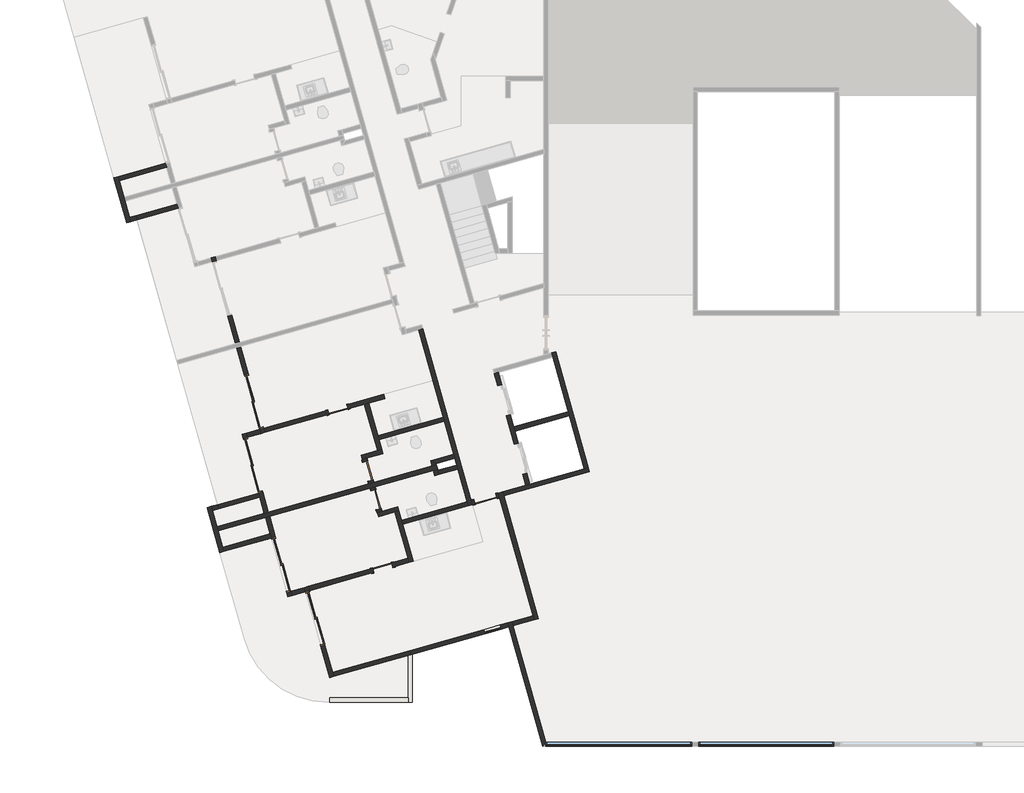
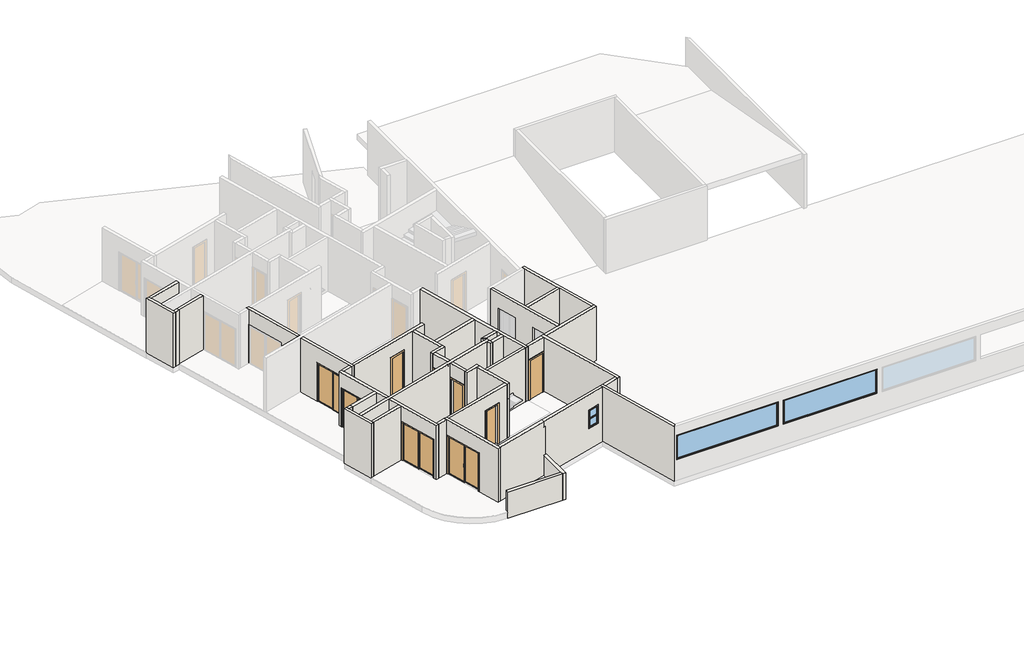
# One storey, part 1 of 4: 43 walls, 9 doors, 3 windows.
"""IFC4 building model written with IfcOpenShell, lengths in millimetres."""

from ifc_helpers import new_model, si_unit, frame, origin, place, context, project, spatial, polyline, outline, extrude, faceted_brep, transform, mapped, element, save
from components import p2_80cm_9d4be4ef, p3_70cm_ef4d15e3, p3_70cm_0a698c7c, p4_correr_200cm_eaaa0877, p4_correr_200cm_830b8f20, bx_60cm_cef95a5c, m_fixo1_jf_4_75m_a83b1cd6, m_fixo1_jf_5_15m_51e2bce7

model = new_model("IFC4")

# Units and contexts
model_context = context("Model", 3, world=origin())
ifc_project = project(units=[si_unit("LENGTHUNIT", "METRE", prefix="MILLI")], contexts=[model_context])

# Site, building, storey
site = spatial("IfcSite", under=ifc_project)
building = spatial("IfcBuilding", under=site)
storey = spatial("IfcBuildingStorey", under=building, Name="Garagem 3", Elevation=42050.0)

# Doors
placement = place(None, origin())
p2_80cm_shape = p2_80cm_9d4be4ef(model_context)
element("IfcDoor", 1, ObjectType="M_Folha única1 : P2 - 80CM", at=placement, inside=storey, context=model_context, shape_type="MappedRepresentation", body=[
    mapped(p2_80cm_shape, transform((-77213.6668366, 12144.847648, 42050.0), x_axis=(0.9623628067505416, 0.2717679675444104, 0.0), y_axis=(-0.2717679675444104, 0.9623628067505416, 0.0), z_axis=(0.0, 0.0, 1.0))),
])
p3_70cm_shape = p3_70cm_ef4d15e3(model_context)
element("IfcDoor", 2, ObjectType="M_Folha única1 : P3 - 70CM", at=placement, inside=storey, context=model_context, shape_type="MappedRepresentation", body=[
    mapped(p3_70cm_shape, transform((-80840.7851368, 9718.5269225, 42050.0), x_axis=(0.9623628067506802, 0.2717679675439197, 0.0), y_axis=(-0.2717679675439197, 0.9623628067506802, 0.0), z_axis=(0.0, 0.0, 1.0))),
])
element("IfcDoor", 3, ObjectType="M_Folha única1 : P3 - 70CM", at=placement, inside=storey, context=model_context, shape_type="MappedRepresentation", body=[
    mapped(p3_70cm_shape, transform((-81362.5862327, 13130.1209218, 42050.0), x_axis=(0.271767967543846, -0.9623628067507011, 0.0), y_axis=(0.9623628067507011, 0.271767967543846, 0.0), z_axis=(0.0, 0.0, 1.0))),
])
p3_70cm_2_shape = p3_70cm_0a698c7c(model_context)
element("IfcDoor", 4, ObjectType="M_Folha única1 : P3 - 70CM", at=placement, inside=storey, context=model_context, shape_type="MappedRepresentation", body=[
    mapped(p3_70cm_2_shape, transform((-81077.2298668, 12119.6399747, 42050.0), x_axis=(-0.27176796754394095, 0.9623628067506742, 0.0), y_axis=(-0.9623628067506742, -0.27176796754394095, 0.0), z_axis=(0.0, 0.0, 1.0))),
])
element("IfcDoor", 5, ObjectType="M_Folha única1 : P3 - 70CM", at=placement, inside=storey, context=model_context, shape_type="MappedRepresentation", body=[
    mapped(p3_70cm_2_shape, transform((-82417.0393485, 15300.2312016, 42050.0), x_axis=(0.9623628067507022, 0.27176796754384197, 0.0), y_axis=(-0.27176796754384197, 0.9623628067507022, 0.0), z_axis=(0.0, 0.0, 1.0))),
])
p4_correr_200cm_shape = p4_correr_200cm_eaaa0877(model_context)
element("IfcDoor", 6, ObjectType="Porta de correr dupla envidraçada sem revestimento : P4 - CORRER - 200CM", at=placement, inside=storey, context=model_context, shape_type="MappedRepresentation", body=[
    mapped(p4_correr_200cm_shape, transform((-84429.028315, 9822.2616509, 42050.0), x_axis=(-0.27176796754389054, 0.9623628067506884, 0.0), y_axis=(-0.9623628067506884, -0.27176796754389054, 0.0), z_axis=(0.0, 0.0, 1.0))),
])
element("IfcDoor", 7, ObjectType="Porta de correr dupla envidraçada sem revestimento : P4 - CORRER - 200CM", at=placement, inside=storey, context=model_context, shape_type="MappedRepresentation", body=[
    mapped(p4_correr_200cm_shape, transform((-83223.012588, 7928.7516937, 42050.0), x_axis=(-0.2717679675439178, 0.9623628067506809, 0.0), y_axis=(-0.9623628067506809, -0.2717679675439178, 0.0), z_axis=(0.0, 0.0, 1.0))),
])
p4_correr_200cm_2_shape = p4_correr_200cm_830b8f20(model_context)
element("IfcDoor", 8, ObjectType="Porta de correr dupla envidraçada sem revestimento : P4 - CORRER - 200CM", at=placement, inside=storey, context=model_context, shape_type="MappedRepresentation", body=[
    mapped(p4_correr_200cm_2_shape, transform((-85383.5679299, 15579.5360073, 42050.0), x_axis=(-0.2717679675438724, 0.9623628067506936, 0.0), y_axis=(-0.9623628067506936, -0.2717679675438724, 0.0), z_axis=(0.0, 0.0, 1.0))),
])
element("IfcDoor", 9, ObjectType="Porta de correr dupla envidraçada sem revestimento : P4 - CORRER - 200CM", at=placement, inside=storey, context=model_context, shape_type="MappedRepresentation", body=[
    mapped(p4_correr_200cm_2_shape, transform((-85420.9813965, 13334.8858955, 42050.0), x_axis=(-0.27176796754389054, 0.9623628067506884, 0.0), y_axis=(-0.9623628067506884, -0.27176796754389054, 0.0), z_axis=(0.0, 0.0, 1.0))),
])

# Walls
element("IfcWall", 10, ObjectType="Básica .15 -  Interna", at=placement, inside=storey, context=model_context, shape_type="Brep", body=[
    faceted_brep([(-75344.9919691, 7919.3931149, 42050.0), (-76567.7484146, 12249.3196164, 42050.0), (-76608.5136097, 12393.6740374, 42050.0), (-76608.5136097, 12393.6740374, 44950.0), (-76567.7484146, 12249.3196164, 44950.0), (-75344.9919691, 7919.3931149, 44950.0), (-75489.3463901, 7878.6279198, 42050.0), (-75489.3463901, 7878.6279198, 44950.0), (-75530.1115852, 8022.9823408, 44950.0), (-76712.1028356, 12208.5544213, 44950.0), (-76752.8680308, 12352.9088423, 44950.0), (-76752.8680308, 12352.9088423, 42050.0), (-76712.1028356, 12208.5544213, 42050.0), (-75530.1115852, 8022.9823408, 42050.0)], [[[0, 1, 2, 3, 4, 5]], [[6, 7, 8, 9, 10, 11, 12, 13]], [[2, 1, 0, 6, 13, 12, 11]], [[5, 4, 3, 10, 9, 8, 7]], [[3, 2, 11, 10]], [[0, 5, 7, 6]]]),
])
element("IfcWall", 11, ObjectType="Básica .15 -  Interna", at=placement, inside=storey, context=model_context, shape_type="Brep", body=[
    faceted_brep([(-79571.9228624, 18103.967491, 42050.0), (-78702.2653663, 15024.4065094, 42050.0), (-78661.5001712, 14880.0520884, 42050.0), (-78335.3786101, 13725.2167203, 42050.0), (-78294.613415, 13580.8622993, 42050.0), (-78226.6714231, 13340.2715976, 42050.0), (-78185.906228, 13195.9171766, 42050.0), (-77818.8200634, 11896.0212586, 42050.0), (-77818.8200634, 11896.0212586, 44950.0), (-78185.906228, 13195.9171766, 44950.0), (-78226.6714231, 13340.2715976, 44950.0), (-78294.613415, 13580.8622993, 44950.0), (-78335.3786101, 13725.2167203, 44950.0), (-78661.5001712, 14880.0520884, 44950.0), (-78702.2653663, 15024.4065094, 44950.0), (-79571.9228624, 18103.967491, 44950.0), (-79427.5684414, 18144.7326862, 42050.0), (-79427.5684414, 18144.7326862, 44950.0), (-77715.2308375, 12081.1408747, 44950.0), (-77674.4656424, 11936.7864537, 44950.0), (-77674.4656424, 11936.7864537, 42050.0), (-77715.2308375, 12081.1408747, 42050.0)], [[[0, 1, 2, 3, 4, 5, 6, 7, 8, 9, 10, 11, 12, 13, 14, 15]], [[16, 17, 18, 19, 20, 21]], [[7, 6, 5, 4, 3, 2, 1, 0, 16, 21, 20]], [[15, 14, 13, 12, 11, 10, 9, 8, 19, 18, 17]], [[0, 15, 17, 16]], [[8, 7, 20, 19]]]),
])
element("IfcWall", 12, ObjectType="Básica .15 -  Interna", at=placement, inside=storey, context=model_context, shape_type="Brep", body=[
    faceted_brep([(-85017.5646639, 11630.3683862, 44950.0), (-85180.6254444, 12207.7860702, 44950.0), (-85221.3906395, 12352.1404912, 44950.0), (-85805.6917697, 14421.2205257, 44950.0), (-85805.6917697, 14421.2205257, 42050.0), (-85764.9265746, 14276.8661047, 42050.0), (-85764.9265746, 14276.8661047, 44150.0), (-85221.3906395, 12352.1404912, 44150.0), (-85221.3906395, 12352.1404912, 42050.0), (-85180.6254444, 12207.7860702, 42050.0), (-85017.5646639, 11630.3683862, 42050.0), (-85661.3373487, 14461.9857209, 44950.0), (-85620.5721536, 14317.6312998, 44950.0), (-84873.2102428, 11671.1335813, 44950.0), (-84873.2102428, 11671.1335813, 42050.0), (-85077.0362185, 12392.9056863, 42050.0), (-85077.0362185, 12392.9056863, 44150.0), (-85620.5721536, 14317.6312998, 44150.0), (-85620.5721536, 14317.6312998, 42050.0), (-85661.3373487, 14461.9857209, 42050.0)], [[[0, 1, 2, 3, 4, 5, 6, 7, 8, 9, 10]], [[11, 12, 13, 14, 15, 16, 17, 18, 19]], [[4, 19, 18, 5]], [[14, 10, 9, 8, 15]], [[3, 2, 1, 0, 13, 12, 11]], [[4, 3, 11, 19]], [[0, 10, 14, 13]], [[17, 6, 5, 18]], [[6, 17, 16, 7]], [[7, 16, 15, 8]]]),
])
element("IfcWall", 13, ObjectType="Básica .15 -  Interna", at=placement, inside=storey, context=model_context, shape_type="Brep", body=[
    faceted_brep([(-82710.8886682, 5839.2890616, 44950.0), (-83566.957766, 8870.7319029, 44950.0), (-83607.7229611, 9015.0863239, 44950.0), (-83607.7229611, 9015.0863239, 42050.0), (-83566.957766, 8870.7319029, 42050.0), (-83566.957766, 8870.7319029, 44150.0), (-83023.4218309, 6946.0062894, 44150.0), (-83023.4218309, 6946.0062894, 42050.0), (-82710.8886682, 5839.2890616, 42050.0), (-83463.3685401, 9055.851519, 44950.0), (-83422.603345, 8911.497098, 44950.0), (-82607.2994424, 6024.4086777, 44950.0), (-82566.5342472, 5880.0542567, 44950.0), (-82566.5342472, 5880.0542567, 42050.0), (-82607.2994424, 6024.4086777, 42050.0), (-82879.0674099, 6986.7714845, 42050.0), (-82879.0674099, 6986.7714845, 44150.0), (-83422.603345, 8911.497098, 44150.0), (-83422.603345, 8911.497098, 42050.0), (-83463.3685401, 9055.851519, 42050.0)], [[[0, 1, 2, 3, 4, 5, 6, 7, 8]], [[9, 10, 11, 12, 13, 14, 15, 16, 17, 18, 19]], [[3, 19, 18, 4]], [[13, 8, 7, 15, 14]], [[2, 1, 0, 12, 11, 10, 9]], [[3, 2, 9, 19]], [[0, 8, 13, 12]], [[17, 5, 4, 18]], [[5, 17, 16, 6]], [[6, 16, 15, 7]]]),
])
element("IfcWall", 14, ObjectType="Básica .15 -  Interna", at=placement, inside=storey, context=model_context, shape_type="Brep", body=[
    faceted_brep([(-86046.8404698, 17652.2925145, 42050.0), (-86046.8404698, 17652.2925145, 44950.0), (-86855.3501733, 20515.3218646, 44950.0), (-86896.1153684, 20659.6762856, 44950.0), (-86896.1153684, 20659.6762856, 42050.0), (-86855.3501733, 20515.3218646, 42050.0), (-86855.3501733, 20515.3218646, 44150.0), (-86311.8142382, 18590.596251, 44150.0), (-86311.8142382, 18590.596251, 42050.0), (-85902.4860488, 17693.0577096, 44950.0), (-85902.4860488, 17693.0577096, 42050.0), (-86167.4598172, 18631.3614462, 42050.0), (-86167.4598172, 18631.3614462, 44150.0), (-86710.9957523, 20556.0870597, 44150.0), (-86710.9957523, 20556.0870597, 42050.0), (-86751.7609474, 20700.4414807, 42050.0), (-86751.7609474, 20700.4414807, 44950.0), (-86710.9957523, 20556.0870597, 44950.0)], [[[0, 1, 2, 3, 4, 5, 6, 7, 8]], [[9, 10, 11, 12, 13, 14, 15, 16, 17]], [[10, 0, 8, 11]], [[4, 15, 14, 5]], [[1, 0, 10, 9]], [[3, 2, 1, 9, 17, 16]], [[4, 3, 16, 15]], [[7, 12, 11, 8]], [[12, 7, 6, 13]], [[13, 6, 5, 14]]]),
])
element("IfcWall", 15, ObjectType="Básica .15 - Externa", at=placement, inside=storey, context=model_context, shape_type="Brep", body=[
    faceted_brep([(-79945.4990038, 6620.2256515, 43150.0), (-79945.4990038, 6620.2256515, 42050.0), (-79945.4990038, 6620.2256515, 41750.0), (-79945.4990038, 5119.4122055, 41750.0), (-79945.4990038, 4969.4122055, 41750.0), (-79945.4990038, 4969.4122055, 43150.0), (-79945.4990038, 5119.4122055, 43150.0), (-79795.4990038, 6662.5851389, 41750.0), (-79795.4990038, 6662.5851389, 43150.0), (-79795.4990038, 4969.4122055, 43150.0), (-79795.4990038, 4969.4122055, 41750.0), (-79850.1164062, 6647.1613711, 41750.0)], [[[0, 1, 2, 3, 4, 5, 6]], [[7, 8, 9, 10]], [[4, 3, 2, 11, 7, 10]], [[0, 6, 5, 9, 8]], [[5, 4, 10, 9]], [[0, 8, 7, 11, 2, 1]]]),
])
element("IfcWall", 16, ObjectType="Básica .15 - Externa", at=placement, inside=storey, context=model_context, shape_type="SweptSolid", body=[
    extrude(outline(polyline([(-82713.5540687, 5119.4122055), (-79945.4990038, 5119.4122055), (-79945.4990038, 4969.4122055), (-82713.5540687, 4969.4122055), (-82713.5540687, 5119.4122055)])), frame((0.0, 0.0, 41750.0), z_axis=(0.0, 0.0, 1.0), x_axis=(1.0, 0.0, 0.0)), (0.0, 0.0, 1.0), 1400.0),
])
element("IfcWall", 17, ObjectType="Básica .15 -  Interna", at=placement, inside=storey, context=model_context, shape_type="Brep", body=[
    faceted_brep([(-73581.8825825, 13248.3842954, 42050.0), (-73726.2370035, 13207.6191002, 42050.0), (-75646.150803, 12665.442005, 42050.0), (-75790.505224, 12624.6768098, 42050.0), (-76608.5136097, 12393.6740374, 42050.0), (-76608.5136097, 12393.6740374, 44950.0), (-75790.505224, 12624.6768098, 44950.0), (-75646.150803, 12665.442005, 44950.0), (-73726.2370035, 13207.6191002, 44950.0), (-73581.8825825, 13248.3842954, 44950.0), (-73541.1173874, 13104.0298743, 42050.0), (-73541.1173874, 13104.0298743, 44950.0), (-76567.7484146, 12249.3196164, 44950.0), (-76567.7484146, 12249.3196164, 42050.0)], [[[0, 1, 2, 3, 4, 5, 6, 7, 8, 9]], [[10, 11, 12, 13]], [[4, 3, 2, 1, 0, 10, 13]], [[9, 8, 7, 6, 5, 12, 11]], [[0, 9, 11, 10]], [[5, 4, 13, 12]]]),
])
element("IfcWall", 18, ObjectType="Básica .15 -  Interna", at=placement, inside=storey, context=model_context, shape_type="Brep", body=[
    faceted_brep([(-74881.2508656, 17297.6610289, 42050.0), (-74840.4856705, 17153.3066079, 42050.0), (-74296.9497354, 15228.5809944, 42050.0), (-74256.1845402, 15084.2265734, 42050.0), (-73726.2370035, 13207.6191002, 42050.0), (-73726.2370035, 13207.6191002, 44950.0), (-74256.1845402, 15084.2265734, 44950.0), (-74296.9497354, 15228.5809944, 44950.0), (-74840.4856705, 17153.3066079, 44950.0), (-74881.2508656, 17297.6610289, 44950.0), (-74736.8964446, 17338.426224, 42050.0), (-74736.8964446, 17338.426224, 44950.0), (-73581.8825825, 13248.3842954, 44950.0), (-73581.8825825, 13248.3842954, 42050.0)], [[[0, 1, 2, 3, 4, 5, 6, 7, 8, 9]], [[10, 11, 12, 13]], [[4, 3, 2, 1, 0, 10, 13]], [[9, 8, 7, 6, 5, 12, 11]], [[5, 4, 13, 12]], [[0, 9, 11, 10]]]),
])
element("IfcWall", 19, ObjectType="Básica .15 -  Interna", at=placement, inside=storey, context=model_context, shape_type="Brep", body=[
    faceted_brep([(-76483.167581, 15077.4768805, 42050.0), (-76197.8112151, 14066.9959334, 42050.0), (-76197.8112151, 14066.9959334, 44175.0), (-75898.8664508, 13008.396846, 44175.0), (-75898.8664508, 13008.396846, 42050.0), (-75790.505224, 12624.6768098, 42050.0), (-75790.505224, 12624.6768098, 44950.0), (-76904.7538909, 16570.3643175, 44950.0), (-76904.7538909, 16570.3643175, 42050.0), (-76782.1123453, 16136.075968, 42050.0), (-76782.1123453, 16136.075968, 44175.0), (-76483.167581, 15077.4768805, 44175.0), (-76053.4567941, 14107.7611286, 44175.0), (-76053.4567941, 14107.7611286, 42050.0), (-76176.0983397, 14542.0494781, 42050.0), (-76216.8635348, 14686.4038991, 42050.0), (-76338.81316, 15118.2420757, 42050.0), (-76338.81316, 15118.2420757, 44175.0), (-76637.7579243, 16176.8411631, 44175.0), (-76637.7579243, 16176.8411631, 42050.0), (-76760.3994699, 16611.1295126, 42050.0), (-76760.3994699, 16611.1295126, 44950.0), (-76216.8635348, 14686.4038991, 44950.0), (-76176.0983397, 14542.0494781, 44950.0), (-75646.150803, 12665.442005, 44950.0), (-75646.150803, 12665.442005, 42050.0), (-75754.5120298, 13049.1620412, 42050.0), (-75754.5120298, 13049.1620412, 44175.0)], [[[0, 1, 2, 3, 4, 5, 6, 7, 8, 9, 10, 11]], [[12, 13, 14, 15, 16, 17, 18, 19, 20, 21, 22, 23, 24, 25, 26, 27]], [[9, 8, 20, 19]], [[26, 25, 5, 4]], [[16, 15, 14, 13, 1, 0]], [[7, 6, 24, 23, 22, 21]], [[8, 7, 21, 20]], [[6, 5, 25, 24]], [[4, 3, 27, 26]], [[2, 1, 13, 12]], [[3, 2, 12, 27]], [[19, 18, 10, 9]], [[17, 16, 0, 11]], [[18, 17, 11, 10]]]),
])
element("IfcWall", 20, ObjectType="Básica .15 -  Interna", at=placement, inside=storey, context=model_context, shape_type="SweptSolid", body=[
    extrude(outline(polyline([(-74256.1845402, 15084.2265734), (-76176.0983397, 14542.0494781), (-76216.8635348, 14686.4038991), (-74296.9497354, 15228.5809944), (-74256.1845402, 15084.2265734)])), frame((0.0, 0.0, 42050.0), z_axis=(0.0, 0.0, 1.0), x_axis=(1.0, 0.0, 0.0)), (0.0, 0.0, 1.0), 2900.0),
])
element("IfcWall", 21, ObjectType="Básica .15 -  Interna", at=placement, inside=storey, context=model_context, shape_type="Brep", body=[
    faceted_brep([(-82566.5342472, 5880.0542567, 42050.0), (-79945.4990038, 6620.2256515, 42050.0), (-79850.1164062, 6647.1613711, 42050.0), (-79850.1164062, 6647.1613711, 44650.0), (-79945.4990038, 6620.2256515, 44650.0), (-79945.4990038, 6620.2256515, 44950.0), (-82566.5342472, 5880.0542567, 44950.0), (-82607.2994424, 6024.4086777, 42050.0), (-82607.2994424, 6024.4086777, 44950.0), (-79945.4990038, 6776.0920243, 44950.0), (-79945.4990038, 6776.0920243, 44650.0), (-79890.8816014, 6791.5157921, 44650.0), (-79890.8816014, 6791.5157921, 42050.0), (-79945.4990038, 6776.0920243, 42050.0)], [[[0, 1, 2, 3, 4, 5, 6]], [[7, 8, 9, 10, 11, 12, 13]], [[2, 1, 0, 7, 13, 12]], [[6, 5, 9, 8]], [[0, 6, 8, 7]], [[2, 12, 11, 3]], [[10, 4, 3, 11]], [[5, 4, 10, 9]]]),
])
element("IfcWall", 22, ObjectType="Básica .15 -  Interna", at=placement, inside=storey, context=model_context, shape_type="Brep", body=[
    faceted_brep([(-85221.3906395, 12352.1404912, 42050.0), (-86668.7560772, 11943.4094383, 42050.0), (-86668.7560772, 11943.4094383, 44950.0), (-85221.3906395, 12352.1404912, 44950.0), (-85221.3906395, 12352.1404912, 44150.0), (-85180.6254444, 12207.7860702, 42050.0), (-85180.6254444, 12207.7860702, 44950.0), (-86627.9908821, 11799.0550173, 44950.0), (-86627.9908821, 11799.0550173, 42050.0)], [[[0, 1, 2, 3, 4]], [[5, 6, 7, 8]], [[1, 0, 5, 8]], [[2, 1, 8, 7]], [[3, 2, 7, 6]], [[0, 4, 3, 6, 5]]]),
])
element("IfcWall", 23, ObjectType="Básica .15 - Externa", at=placement, inside=storey, context=model_context, shape_type="Brep", body=[
    faceted_brep([(-86444.4738537, 10292.215871, 42050.0), (-86485.2390488, 10436.570292, 42050.0), (-86648.2998293, 11013.987976, 42050.0), (-86689.0650245, 11158.342397, 42050.0), (-86852.125805, 11735.7600811, 42050.0), (-86892.8910001, 11880.1145021, 42050.0), (-86892.8910001, 11880.1145021, 44950.0), (-86852.125805, 11735.7600811, 44950.0), (-86689.0650245, 11158.342397, 44950.0), (-86648.2998293, 11013.987976, 44950.0), (-86485.2390488, 10436.570292, 44950.0), (-86444.4738537, 10292.215871, 44950.0), (-86588.8282747, 10251.4506758, 42050.0), (-86588.8282747, 10251.4506758, 44950.0), (-87037.2454211, 11839.349307, 44950.0), (-87037.2454211, 11839.349307, 42050.0)], [[[0, 1, 2, 3, 4, 5, 6, 7, 8, 9, 10, 11]], [[12, 13, 14, 15]], [[5, 4, 3, 2, 1, 0, 12, 15]], [[11, 10, 9, 8, 7, 6, 14, 13]], [[6, 5, 15, 14]], [[0, 11, 13, 12]]]),
])
element("IfcWall", 24, ObjectType="Básica .15 -  Interna", at=placement, inside=storey, context=model_context, shape_type="Brep", body=[
    faceted_brep([(-86444.4738537, 10292.215871, 42050.0), (-84772.9734931, 10764.2418601, 42050.0), (-84772.9734931, 10764.2418601, 44150.0), (-84772.9734931, 10764.2418601, 44950.0), (-86444.4738537, 10292.215871, 44950.0), (-86485.2390488, 10436.570292, 42050.0), (-86485.2390488, 10436.570292, 44950.0), (-84813.7386882, 10908.5962811, 44950.0), (-84813.7386882, 10908.5962811, 42050.0)], [[[0, 1, 2, 3, 4]], [[5, 6, 7, 8]], [[1, 0, 5, 8]], [[4, 3, 7, 6]], [[0, 4, 6, 5]], [[3, 2, 1, 8, 7]]]),
])
element("IfcWall", 25, ObjectType="Básica .15 - Externa", at=placement, inside=storey, context=model_context, shape_type="Brep", body=[
    faceted_brep([(-89732.866261, 21936.8058326, 42050.0), (-89773.6314561, 22081.1602536, 42050.0), (-89936.6922366, 22658.5779377, 42050.0), (-89977.4574318, 22802.9323587, 42050.0), (-90140.5182123, 23380.3500428, 42050.0), (-90181.2834074, 23524.7044638, 42050.0), (-90181.2834074, 23524.7044638, 44950.0), (-90140.5182123, 23380.3500428, 44950.0), (-89977.4574318, 22802.9323587, 44950.0), (-89936.6922366, 22658.5779377, 44950.0), (-89773.6314561, 22081.1602536, 44950.0), (-89732.866261, 21936.8058326, 44950.0), (-89877.220682, 21896.0406375, 42050.0), (-89877.220682, 21896.0406375, 44950.0), (-90325.6378284, 23483.9392686, 44950.0), (-90325.6378284, 23483.9392686, 42050.0)], [[[0, 1, 2, 3, 4, 5, 6, 7, 8, 9, 10, 11]], [[12, 13, 14, 15]], [[5, 4, 3, 2, 1, 0, 12, 15]], [[11, 10, 9, 8, 7, 6, 14, 13]], [[0, 11, 13, 12]], [[6, 5, 15, 14]]]),
])
element("IfcWall", 26, ObjectType="Básica .15 -  Interna", at=placement, inside=storey, context=model_context, shape_type="Brep", body=[
    faceted_brep([(-88102.1310955, 22553.1862428, 42050.0), (-89549.4965332, 22144.4551899, 42050.0), (-89549.4965332, 22144.4551899, 44950.0), (-88102.1310955, 22553.1862428, 44950.0), (-88061.3659003, 22408.8318218, 42050.0), (-88061.3659003, 22408.8318218, 44150.0), (-88061.3659003, 22408.8318218, 44950.0), (-89508.731338, 22000.1007688, 44950.0), (-89508.731338, 22000.1007688, 42050.0)], [[[0, 1, 2, 3]], [[4, 5, 6, 7, 8]], [[1, 0, 4, 8]], [[2, 1, 8, 7]], [[3, 2, 7, 6]], [[0, 3, 6, 5, 4]]]),
])
element("IfcWall", 27, ObjectType="Básica .15 -  Interna", at=placement, inside=storey, context=model_context, shape_type="Brep", body=[
    faceted_brep([(-90140.5182123, 23380.3500428, 42050.0), (-88469.0178517, 23852.3760319, 42050.0), (-88469.0178517, 23852.3760319, 44950.0), (-90140.5182123, 23380.3500428, 44950.0), (-90181.2834074, 23524.7044638, 42050.0), (-90181.2834074, 23524.7044638, 44950.0), (-88509.7830468, 23996.7304529, 44950.0), (-88509.7830468, 23996.7304529, 44150.0), (-88509.7830468, 23996.7304529, 42050.0)], [[[0, 1, 2, 3]], [[4, 5, 6, 7, 8]], [[1, 0, 4, 8]], [[3, 2, 6, 5]], [[0, 3, 5, 4]], [[2, 1, 8, 7, 6]]]),
])
element("IfcWall", 28, ObjectType="Básica .15 -  Interna", at=placement, inside=storey, context=model_context, shape_type="Brep", body=[
    faceted_brep([(-83607.7229611, 9015.0863239, 42050.0), (-84085.083137, 8880.2814417, 42050.0), (-84085.083137, 8880.2814417, 44150.0), (-84085.083137, 8880.2814417, 44950.0), (-83607.7229611, 9015.0863239, 44950.0), (-83566.957766, 8870.7319029, 42050.0), (-83566.957766, 8870.7319029, 44150.0), (-83566.957766, 8870.7319029, 44950.0), (-84044.3179418, 8735.9270207, 44950.0), (-84044.3179418, 8735.9270207, 42050.0)], [[[0, 1, 2, 3, 4]], [[5, 6, 7, 8, 9]], [[1, 0, 5, 9]], [[4, 3, 8, 7]], [[3, 2, 1, 9, 8]], [[0, 4, 7, 6, 5]]]),
])
element("IfcWall", 29, ObjectType="Básica .15 -  Interna", at=placement, inside=storey, context=model_context, shape_type="Brep", body=[
    faceted_brep([(-85183.9771729, 14596.790603, 42050.0), (-85661.3373487, 14461.9857209, 42050.0), (-85661.3373487, 14461.9857209, 44950.0), (-85183.9771729, 14596.790603, 44950.0), (-85183.9771729, 14596.790603, 44150.0), (-85143.2119778, 14452.436182, 42050.0), (-85143.2119778, 14452.436182, 44950.0), (-85620.5721536, 14317.6312998, 44950.0), (-85620.5721536, 14317.6312998, 44150.0), (-85620.5721536, 14317.6312998, 42050.0)], [[[0, 1, 2, 3, 4]], [[5, 6, 7, 8, 9]], [[1, 0, 5, 9]], [[3, 2, 7, 6]], [[2, 1, 9, 8, 7]], [[0, 4, 3, 6, 5]]]),
])
element("IfcWall", 30, ObjectType="Básica .15 -  Interna", at=placement, inside=storey, context=model_context, shape_type="Brep", body=[
    faceted_brep([(-85143.2119778, 14452.436182, 44950.0), (-85183.9771729, 14596.790603, 44950.0), (-85992.4868763, 17459.8199531, 44950.0), (-85992.4868763, 17459.8199531, 42050.0), (-85727.513108, 16521.5162165, 42050.0), (-85727.513108, 16521.5162165, 44150.0), (-85183.9771729, 14596.790603, 44150.0), (-85183.9771729, 14596.790603, 42050.0), (-85143.2119778, 14452.436182, 42050.0), (-85848.1324553, 17500.5851482, 44950.0), (-85039.6227519, 14637.5557982, 44950.0), (-84998.8575568, 14493.2013772, 44950.0), (-84998.8575568, 14493.2013772, 42050.0), (-85039.6227519, 14637.5557982, 42050.0), (-85039.6227519, 14637.5557982, 44150.0), (-85583.158687, 16562.2814117, 44150.0), (-85583.158687, 16562.2814117, 42050.0), (-85848.1324553, 17500.5851482, 42050.0)], [[[0, 1, 2, 3, 4, 5, 6, 7, 8]], [[9, 10, 11, 12, 13, 14, 15, 16, 17]], [[3, 17, 16, 4]], [[12, 8, 7, 13]], [[2, 1, 0, 11, 10, 9]], [[3, 2, 9, 17]], [[0, 8, 12, 11]], [[15, 5, 4, 16]], [[5, 15, 14, 6]], [[6, 14, 13, 7]]]),
])
element("IfcWall", 31, ObjectType="Básica .15 -  Interna", at=placement, inside=storey, context=model_context, shape_type="Brep", body=[
    faceted_brep([(-78945.0553533, 13345.2242614, 42050.0), (-81168.1134369, 12717.4402563, 42050.0), (-81312.4678579, 12676.6750612, 42050.0), (-84873.2102428, 11671.1335813, 42050.0), (-85017.5646639, 11630.3683862, 42050.0), (-86689.0650245, 11158.342397, 42050.0), (-86689.0650245, 11158.342397, 44950.0), (-85017.5646639, 11630.3683862, 44950.0), (-84873.2102428, 11671.1335813, 44950.0), (-81312.4678579, 12676.6750612, 44950.0), (-81168.1134369, 12717.4402563, 44950.0), (-78945.0553533, 13345.2242614, 44950.0), (-78904.2901581, 13200.8698403, 42050.0), (-78904.2901581, 13200.8698403, 44950.0), (-81127.3482417, 12573.0858353, 44950.0), (-81271.7026627, 12532.3206402, 44950.0), (-84832.4450477, 11526.7791603, 44950.0), (-84976.7994687, 11486.0139651, 44950.0), (-86648.2998293, 11013.987976, 44950.0), (-86648.2998293, 11013.987976, 42050.0), (-84976.7994687, 11486.0139651, 42050.0), (-84832.4450477, 11526.7791603, 42050.0), (-81271.7026627, 12532.3206402, 42050.0), (-81127.3482417, 12573.0858353, 42050.0)], [[[0, 1, 2, 3, 4, 5, 6, 7, 8, 9, 10, 11]], [[12, 13, 14, 15, 16, 17, 18, 19, 20, 21, 22, 23]], [[5, 4, 3, 2, 1, 0, 12, 23, 22, 21, 20, 19]], [[11, 10, 9, 8, 7, 6, 18, 17, 16, 15, 14, 13]], [[0, 11, 13, 12]], [[6, 5, 19, 18]]]),
])
element("IfcWall", 32, ObjectType="Básica .15 -  Interna", at=placement, inside=storey, context=model_context, shape_type="Brep", body=[
    faceted_brep([(-84188.6723628, 8695.1618256, 44950.0), (-84772.9734931, 10764.2418601, 44950.0), (-84813.7386882, 10908.5962811, 44950.0), (-84976.7994687, 11486.0139651, 44950.0), (-84976.7994687, 11486.0139651, 42050.0), (-84813.7386882, 10908.5962811, 42050.0), (-84772.9734931, 10764.2418601, 42050.0), (-84772.9734931, 10764.2418601, 44150.0), (-84229.437558, 8839.5162466, 44150.0), (-84229.437558, 8839.5162466, 42050.0), (-84188.6723628, 8695.1618256, 42050.0), (-84832.4450477, 11526.7791603, 44950.0), (-84085.083137, 8880.2814417, 44950.0), (-84044.3179418, 8735.9270207, 44950.0), (-84044.3179418, 8735.9270207, 42050.0), (-84085.083137, 8880.2814417, 42050.0), (-84085.083137, 8880.2814417, 44150.0), (-84628.6190721, 10805.0070552, 44150.0), (-84628.6190721, 10805.0070552, 42050.0), (-84832.4450477, 11526.7791603, 42050.0)], [[[0, 1, 2, 3, 4, 5, 6, 7, 8, 9, 10]], [[11, 12, 13, 14, 15, 16, 17, 18, 19]], [[14, 10, 9, 15]], [[4, 19, 18, 6, 5]], [[3, 2, 1, 0, 13, 12, 11]], [[0, 10, 14, 13]], [[4, 3, 11, 19]], [[17, 7, 6, 18]], [[7, 17, 16, 8]], [[8, 16, 15, 9]]]),
])
element("IfcWall", 33, ObjectType="Básica .15 - Externa", at=placement, inside=storey, context=model_context, shape_type="SweptSolid", body=[
    extrude(outline(polyline([(-89773.6314561, 22081.1602536), (-89549.4965332, 22144.4551899), (-89508.731338, 22000.1007688), (-89732.866261, 21936.8058326), (-89773.6314561, 22081.1602536)])), frame((0.0, 0.0, 42050.0), z_axis=(0.0, 0.0, 1.0), x_axis=(1.0, 0.0, 0.0)), (0.0, 0.0, 1.0), 2900.0),
])
element("IfcWall", 34, ObjectType="Básica .15 - Externa", at=placement, inside=storey, context=model_context, shape_type="SweptSolid", body=[
    extrude(outline(polyline([(-86892.8910001, 11880.1145021), (-86668.7560772, 11943.4094383), (-86627.9908821, 11799.0550173), (-86852.125805, 11735.7600811), (-86892.8910001, 11880.1145021)])), frame((0.0, 0.0, 42050.0), z_axis=(0.0, 0.0, 1.0), x_axis=(1.0, 0.0, 0.0)), (0.0, 0.0, 1.0), 2900.0),
])
element("IfcWall", 35, ObjectType="Básica .15 -  Interna", at=placement, inside=storey, context=model_context, shape_type="SweptSolid", body=[
    extrude(outline(polyline([(-80169.4554031, 11388.8386864), (-77859.7846669, 12041.0818085), (-77819.0194718, 11896.7273875), (-80128.690208, 11244.4842654), (-80169.4554031, 11388.8386864)])), frame((0.0, 0.0, 42050.0), z_axis=(0.0, 0.0, 1.0), x_axis=(1.0, 0.0, 0.0)), (0.0, 0.0, 1.0), 2900.0),
])
element("IfcWall", 36, ObjectType="Básica .15 -  Interna", at=placement, inside=storey, context=model_context, shape_type="SweptSolid", body=[
    extrude(outline(polyline([(-78185.906228, 13195.9171766), (-78849.9365646, 13008.397279), (-78890.7017597, 13152.7517), (-78226.6714231, 13340.2715976), (-78185.906228, 13195.9171766)])), frame((0.0, 0.0, 42050.0), z_axis=(0.0, 0.0, 1.0), x_axis=(1.0, 0.0, 0.0)), (0.0, 0.0, 1.0), 2900.0),
])
element("IfcWall", 37, ObjectType="Básica .15 -  Interna", at=placement, inside=storey, context=model_context, shape_type="Brep", body=[
    faceted_brep([(-80986.3462968, 11521.8396931, 42050.0), (-80408.9286128, 11684.9004736, 42050.0), (-80264.5741917, 11725.6656688, 42050.0), (-80264.5741917, 11725.6656688, 44950.0), (-80408.9286128, 11684.9004736, 44950.0), (-80986.3462968, 11521.8396931, 44950.0), (-81027.1114919, 11666.1941141, 42050.0), (-81027.1114919, 11666.1941141, 44950.0), (-80882.7570709, 11706.9593092, 44950.0), (-80305.3393869, 11870.0200898, 44950.0), (-80305.3393869, 11870.0200898, 42050.0), (-80882.7570709, 11706.9593092, 42050.0)], [[[0, 1, 2, 3, 4, 5]], [[6, 7, 8, 9, 10, 11]], [[2, 1, 0, 6, 11, 10]], [[5, 4, 3, 9, 8, 7]], [[0, 5, 7, 6]], [[3, 2, 10, 9]]]),
])
element("IfcWall", 38, ObjectType="Básica .15 -  Interna", at=placement, inside=storey, context=model_context, shape_type="SweptSolid", body=[
    extrude(outline(polyline([(900.0, -2900.0), (0.0, -2900.0), (0.0, 0.0), (100.0, 0.0), (100.0, -2100.0), (800.0, -2100.0), (800.0, 0.0), (900.0, 0.0), (900.0, -2900.0)])), frame((-81271.7026627, 12532.3206402, 42050.0), z_axis=(0.9623628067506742, 0.271767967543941, 0.0), x_axis=(0.271767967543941, -0.9623628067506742, 0.0)), (0.0, 0.0, 1.0), 150.0),
])
element("IfcWall", 39, ObjectType="Básica .15 -  Interna", at=placement, inside=storey, context=model_context, shape_type="Brep", body=[
    faceted_brep([(-80408.9286128, 11684.9004736, 42050.0), (-79946.9230679, 10048.8837021, 42050.0), (-79906.1578728, 9904.5292811, 42050.0), (-79906.1578728, 9904.5292811, 44950.0), (-79946.9230679, 10048.8837021, 44950.0), (-80408.9286128, 11684.9004736, 44950.0), (-80264.5741917, 11725.6656688, 42050.0), (-80264.5741917, 11725.6656688, 44950.0), (-80169.4554031, 11388.8386864, 44950.0), (-80128.690208, 11244.4842654, 44950.0), (-79761.8034518, 9945.2944763, 44950.0), (-79761.8034518, 9945.2944763, 42050.0), (-80128.690208, 11244.4842654, 42050.0), (-80169.4554031, 11388.8386864, 42050.0)], [[[0, 1, 2, 3, 4, 5]], [[6, 7, 8, 9, 10, 11, 12, 13]], [[2, 1, 0, 6, 13, 12, 11]], [[5, 4, 3, 10, 9, 8, 7]], [[3, 2, 11, 10]], [[0, 5, 7, 6]]]),
])
element("IfcWall", 40, ObjectType="Básica .15 -  Interna", at=placement, inside=storey, context=model_context, shape_type="Brep", body=[
    faceted_brep([(-79946.9230679, 10048.8837021, 42050.0), (-80524.340752, 9885.8229216, 42050.0), (-80524.340752, 9885.8229216, 44150.0), (-81197.9947167, 9695.5853443, 44150.0), (-81197.9947167, 9695.5853443, 42050.0), (-83463.3685401, 9055.851519, 42050.0), (-83463.3685401, 9055.851519, 44950.0), (-79946.9230679, 10048.8837021, 44950.0), (-80483.5755569, 9741.4685006, 44150.0), (-80483.5755569, 9741.4685006, 42050.0), (-79906.1578728, 9904.5292811, 42050.0), (-79906.1578728, 9904.5292811, 44950.0), (-83422.603345, 8911.497098, 44950.0), (-83422.603345, 8911.497098, 44150.0), (-83422.603345, 8911.497098, 42050.0), (-81157.2295216, 9551.2309233, 42050.0), (-81157.2295216, 9551.2309233, 44150.0)], [[[0, 1, 2, 3, 4, 5, 6, 7]], [[8, 9, 10, 11, 12, 13, 14, 15, 16]], [[15, 14, 5, 4]], [[10, 9, 1, 0]], [[7, 6, 12, 11]], [[2, 1, 9, 8]], [[3, 2, 8, 16]], [[4, 3, 16, 15]], [[0, 7, 11, 10]], [[6, 5, 14, 13, 12]]]),
])
element("IfcWall", 41, ObjectType="Básica .15 -  Interna", at=placement, inside=storey, context=model_context, shape_type="Brep", body=[
    faceted_brep([(-79048.6445791, 13160.1046452, 42050.0), (-78994.2909856, 12967.6320839, 42050.0), (-78994.2909856, 12967.6320839, 44950.0), (-79048.6445791, 13160.1046452, 44950.0), (-78904.2901581, 13200.8698403, 42050.0), (-78904.2901581, 13200.8698403, 44950.0), (-78890.7017597, 13152.7517, 44950.0), (-78849.9365646, 13008.397279, 44950.0), (-78849.9365646, 13008.397279, 42050.0), (-78890.7017597, 13152.7517, 42050.0)], [[[0, 1, 2, 3]], [[4, 5, 6, 7, 8, 9]], [[1, 0, 4, 9, 8]], [[3, 2, 7, 6, 5]], [[0, 3, 5, 4]], [[2, 1, 8, 7]]]),
])
element("IfcWall", 42, ObjectType="Básica .15 -  Interna", at=placement, inside=storey, context=model_context, shape_type="SweptSolid", body=[
    extrude(outline(polyline([(-79143.7633678, 13496.9316276), (-78335.3786101, 13725.2167203), (-78294.613415, 13580.8622993), (-78958.6437516, 13393.3424017), (-79143.7633678, 13496.9316276)])), frame((0.0, 0.0, 42050.0), z_axis=(0.0, 0.0, 1.0), x_axis=(1.0, 0.0, 0.0)), (0.0, 0.0, 1.0), 2900.0),
])
element("IfcWall", 43, ObjectType="Básica .15 -  Interna", at=placement, inside=storey, context=model_context, shape_type="SweptSolid", body=[
    extrude(outline(polyline([(-79089.4097743, 13304.4590662), (-79143.7633678, 13496.9316276), (-78958.6437516, 13393.3424017), (-78945.0553533, 13345.2242614), (-79089.4097743, 13304.4590662)])), frame((0.0, 0.0, 42050.0), z_axis=(0.0, 0.0, 1.0), x_axis=(1.0, 0.0, 0.0)), (0.0, 0.0, 1.0), 2900.0),
])
element("IfcWall", 44, ObjectType="Básica .15 -  Interna", at=placement, inside=storey, context=model_context, shape_type="Brep", body=[
    faceted_brep([(-80876.0521187, 13890.981984, 42050.0), (-81020.4065397, 13850.2167888, 42050.0), (-81597.8242238, 13687.1560083, 42050.0), (-81597.8242238, 13687.1560083, 44950.0), (-81020.4065397, 13850.2167888, 44950.0), (-80876.0521187, 13890.981984, 44950.0), (-80835.2869236, 13746.6275629, 42050.0), (-80835.2869236, 13746.6275629, 44950.0), (-81412.7046076, 13583.5667824, 44950.0), (-81557.0590287, 13542.8015873, 44950.0), (-81557.0590287, 13542.8015873, 42050.0), (-81412.7046076, 13583.5667824, 42050.0)], [[[0, 1, 2, 3, 4, 5]], [[6, 7, 8, 9, 10, 11]], [[2, 1, 0, 6, 11, 10]], [[5, 4, 3, 9, 8, 7]], [[0, 5, 7, 6]], [[3, 2, 10, 9]]]),
])
element("IfcWall", 45, ObjectType="Básica .15 -  Interna", at=placement, inside=storey, context=model_context, shape_type="Brep", body=[
    faceted_brep([(-81482.4120846, 15486.2335603, 42050.0), (-81020.4065397, 13850.2167888, 42050.0), (-81020.4065397, 13850.2167888, 44950.0), (-81482.4120846, 15486.2335603, 44950.0), (-81338.0576635, 15526.9987554, 42050.0), (-81338.0576635, 15526.9987554, 44950.0), (-81011.9361025, 14372.1633873, 44950.0), (-80971.1709074, 14227.8089663, 44950.0), (-80876.0521187, 13890.981984, 44950.0), (-80876.0521187, 13890.981984, 42050.0), (-80971.1709074, 14227.8089663, 42050.0), (-81011.9361025, 14372.1633873, 42050.0)], [[[0, 1, 2, 3]], [[4, 5, 6, 7, 8, 9, 10, 11]], [[1, 0, 4, 11, 10, 9]], [[3, 2, 8, 7, 6, 5]], [[0, 3, 5, 4]], [[2, 1, 9, 8]]]),
])
element("IfcWall", 46, ObjectType="Básica .15 -  Interna", at=placement, inside=storey, context=model_context, shape_type="SweptSolid", body=[
    extrude(outline(polyline([(-81011.9361025, 14372.1633873), (-78702.2653663, 15024.4065094), (-78661.5001712, 14880.0520884), (-80971.1709074, 14227.8089663), (-81011.9361025, 14372.1633873)])), frame((0.0, 0.0, 42050.0), z_axis=(0.0, 0.0, 1.0), x_axis=(1.0, 0.0, 0.0)), (0.0, 0.0, 1.0), 2900.0),
])
element("IfcWall", 47, ObjectType="Básica .15 -  Interna", at=placement, inside=storey, context=model_context, shape_type="Brep", body=[
    faceted_brep([(-80801.4051746, 15834.413957, 42050.0), (-82100.5949637, 15467.5272008, 42050.0), (-82100.5949637, 15467.5272008, 44150.0), (-82774.2489285, 15277.2896235, 44150.0), (-82774.2489285, 15277.2896235, 42050.0), (-85039.6227519, 14637.5557982, 42050.0), (-85039.6227519, 14637.5557982, 44150.0), (-85039.6227519, 14637.5557982, 44950.0), (-80801.4051746, 15834.413957, 44950.0), (-82059.8297686, 15323.1727798, 44150.0), (-82059.8297686, 15323.1727798, 42050.0), (-81482.4120846, 15486.2335603, 42050.0), (-81338.0576635, 15526.9987554, 42050.0), (-80760.6399795, 15690.059536, 42050.0), (-80760.6399795, 15690.059536, 44950.0), (-81338.0576635, 15526.9987554, 44950.0), (-81482.4120846, 15486.2335603, 44950.0), (-84998.8575568, 14493.2013772, 44950.0), (-84998.8575568, 14493.2013772, 42050.0), (-82733.4837333, 15132.9352025, 42050.0), (-82733.4837333, 15132.9352025, 44150.0)], [[[0, 1, 2, 3, 4, 5, 6, 7, 8]], [[9, 10, 11, 12, 13, 14, 15, 16, 17, 18, 19, 20]], [[19, 18, 5, 4]], [[13, 12, 11, 10, 1, 0]], [[8, 7, 17, 16, 15, 14]], [[0, 8, 14, 13]], [[2, 1, 10, 9]], [[3, 2, 9, 20]], [[4, 3, 20, 19]], [[7, 6, 5, 18, 17]]]),
])
element("IfcWall", 48, ObjectType="Básica .15 -  Interna", at=placement, inside=storey, context=model_context, shape_type="SweptSolid", body=[
    extrude(outline(polyline([(-250.0, -2100.0), (-250.0, 0.0), (-150.0, 0.0), (-150.0, -2900.0), (-1050.0, -2900.0), (-1050.0, 0.0), (-950.0, 0.0), (-950.0, -2100.0), (-250.0, -2100.0)])), frame((-81271.7026627, 12532.3206402, 42050.0), z_axis=(0.9623628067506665, 0.2717679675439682, 0.0), x_axis=(0.2717679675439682, -0.9623628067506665, 0.0)), (0.0, 0.0, 1.0), 150.0),
])
element("IfcWall", 49, ObjectType="Básica .15 -  Interna", at=placement, inside=storey, context=model_context, shape_type="SweptSolid", body=[
    extrude(outline(polyline([(-1100.0, -2100.0), (-1100.0, 0.0), (-999.9999999, 0.0), (-999.9999999, -2900.0), (-2000.0, -2900.0), (-2000.0, 0.0), (-1900.0, 0.0), (-1900.0, -2100.0), (-1100.0, -2100.0)])), frame((-75749.7400289, 12480.3223888, 42050.0), z_axis=(-0.2717679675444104, 0.9623628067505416, 0.0), x_axis=(0.9623628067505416, 0.2717679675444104, 0.0)), (0.0, 0.0, 1.0), 150.0),
])
element("IfcWall", 50, ObjectType="Básica .15 - Externa", at=placement, inside=storey, context=model_context, shape_type="Brep", body=[
    faceted_brep([(-76426.5651575, 7769.8269158, 42050.0), (-76385.7999624, 7625.4724948, 42050.0), (-75195.6613336, 3411.0495751, 42050.0), (-75195.6613336, 3411.0495751, 44950.0), (-76385.7999624, 7625.4724948, 44950.0), (-76426.5651575, 7769.8269158, 44950.0), (-76282.2107365, 7810.5921109, 42050.0), (-76282.2107365, 7810.5921109, 44950.0), (-76241.4455414, 7666.2376899, 44950.0), (-75082.1544481, 3561.0495751, 44950.0), (-75082.1544481, 3561.0495751, 42050.0), (-76241.4455414, 7666.2376899, 42050.0)], [[[0, 1, 2, 3, 4, 5]], [[6, 7, 8, 9, 10, 11]], [[2, 1, 0, 6, 11, 10]], [[5, 4, 3, 9, 8, 7]], [[3, 2, 10, 9]], [[0, 5, 7, 6]]]),
])
element("IfcWall", 51, ObjectType="Básica .15 - Externa", at=placement, inside=storey, context=model_context, shape_type="Brep", body=[
    faceted_brep([(-79850.1164062, 6647.1613711, 44650.0), (-79850.1164062, 6647.1613711, 42050.0), (-76385.7999624, 7625.4724948, 42050.0), (-76385.7999624, 7625.4724948, 44950.0), (-79850.1164062, 6647.1613711, 44950.0), (-79945.4990038, 6620.2256515, 44950.0), (-79945.4990038, 6620.2256515, 44650.0), (-76649.6431667, 7550.9640756, 43150.0), (-77227.0608508, 7387.9032951, 43150.0), (-77227.0608508, 7387.9032951, 44150.0), (-76649.6431667, 7550.9640756, 44150.0), (-79890.8816014, 6791.5157921, 42050.0), (-79890.8816014, 6791.5157921, 44650.0), (-79945.4990038, 6776.0920243, 44650.0), (-79945.4990038, 6776.0920243, 44950.0), (-79890.8816014, 6791.5157921, 44950.0), (-76426.5651575, 7769.8269158, 44950.0), (-76426.5651575, 7769.8269158, 42050.0), (-76690.4083619, 7695.3184966, 43150.0), (-76690.4083619, 7695.3184966, 44150.0), (-77267.8260459, 7532.2577161, 44150.0), (-77267.8260459, 7532.2577161, 43150.0)], [[[0, 1, 2, 3, 4, 5, 6], [7, 8, 9, 10]], [[11, 12, 13, 14, 15, 16, 17], [18, 19, 20, 21]], [[2, 1, 11, 17]], [[5, 4, 3, 16, 15, 14]], [[18, 21, 8, 7]], [[21, 20, 9, 8]], [[20, 19, 10, 9]], [[19, 18, 7, 10]], [[3, 2, 17, 16]], [[0, 12, 11, 1]], [[6, 13, 12, 0]], [[6, 5, 14, 13]]]),
])
element("IfcWall", 52, ObjectType="Básica .15 -  Interna", at=placement, inside=storey, context=model_context, shape_type="SweptSolid", body=[
    extrude(outline(polyline([(-75489.3463901, 7878.6279198), (-76241.4455414, 7666.2376899), (-76282.2107365, 7810.5921109), (-75530.1115852, 8022.9823408), (-75489.3463901, 7878.6279198)])), frame((0.0, 0.0, 42050.0), z_axis=(0.0, 0.0, 1.0), x_axis=(1.0, 0.0, 0.0)), (0.0, 0.0, 1.0), 2900.0),
])

# Windows
bx_60cm_shape = bx_60cm_cef95a5c(model_context)
element("IfcWindow", 53, ObjectType="Janela pivotante horizontal - 2 Painéis : BX - 60CM", at=placement, inside=storey, context=model_context, shape_type="MappedRepresentation", body=[
    mapped(bx_60cm_shape, transform((-76958.7346063, 7541.6108959, 42500.0), x_axis=(-0.9623628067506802, -0.27176796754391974, 0.0), y_axis=(0.27176796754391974, -0.9623628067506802, 0.0), z_axis=(0.0, 0.0, 1.0))),
])
m_fixo1_jf_4_75m_shape = m_fixo1_jf_4_75m_a83b1cd6(model_context)
element("IfcWindow", 54, ObjectType="M_Fixo1 : JF - 4.75m", at=placement, inside=storey, context=model_context, shape_type="MappedRepresentation", body=[
    mapped(m_fixo1_jf_4_75m_shape, transform((-67300.8696428, 3499.0495751, 42235.0), x_axis=(-1.0, 0.0, 0.0), y_axis=(0.0, -1.0, 0.0), z_axis=(0.0, 0.0, 1.0))),
])
m_fixo1_jf_5_15m_shape = m_fixo1_jf_5_15m_51e2bce7(model_context)
element("IfcWindow", 55, ObjectType="M_Fixo1 : JF - 5.15m", at=placement, inside=storey, context=model_context, shape_type="MappedRepresentation", body=[
    mapped(m_fixo1_jf_5_15m_shape, transform((-72500.8696428, 3499.0495751, 42235.0), x_axis=(-1.0, 0.0, 0.0), y_axis=(0.0, -1.0, 0.0), z_axis=(0.0, 0.0, 1.0))),
])

save(model, "model.ifc")
